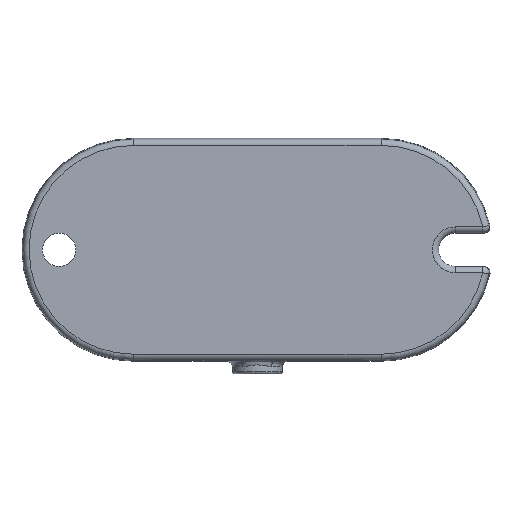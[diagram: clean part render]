
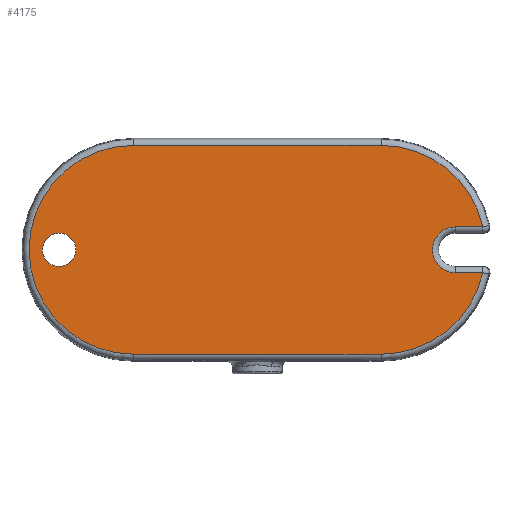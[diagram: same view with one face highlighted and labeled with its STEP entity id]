
A CAD part, front view. The second image highlights one B-rep face of the part: STEP entity #4175.
In plain terms, the highlighted planar face has unit normal (0, -1, 0).
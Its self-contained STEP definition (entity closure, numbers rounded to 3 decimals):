
#50 = VERTEX_POINT ( 'NONE', #261 ) ;
#52 = VERTEX_POINT ( 'NONE', #12150 ) ;
#93 = VERTEX_POINT ( 'NONE', #303 ) ;
#103 = VERTEX_POINT ( 'NONE', #313 ) ;
#108 = VERTEX_POINT ( 'NONE', #318 ) ;
#261 = CARTESIAN_POINT ( 'NONE',  ( 20., -5., -16.86 ) ) ;
#303 = CARTESIAN_POINT ( 'NONE',  ( -32., -5., 2.7 ) ) ;
#313 = CARTESIAN_POINT ( 'NONE',  ( 36.449, -5., 3.7 ) ) ;
#318 = CARTESIAN_POINT ( 'NONE',  ( -32., -5., -2.7 ) ) ;
#4175 = ADVANCED_FACE ( 'NONE', ( #5185, #5197 ), #5993, .T. ) ;
#4890 = CARTESIAN_POINT ( 'NONE',  ( 20., -5., 0. ) ) ;
#4891 = DIRECTION ( 'NONE',  ( 0., -1., 0. ) ) ;
#4892 = DIRECTION ( 'NONE',  ( 0., 0., -1. ) ) ;
#4893 = CARTESIAN_POINT ( 'NONE',  ( 20., -5., -16.86 ) ) ;
#4894 = CARTESIAN_POINT ( 'NONE',  ( 32., -5., 0. ) ) ;
#4896 = CARTESIAN_POINT ( 'NONE',  ( -20., -5., 0. ) ) ;
#4897 = DIRECTION ( 'NONE',  ( 1., 0., 0. ) ) ;
#4898 = CARTESIAN_POINT ( 'NONE',  ( 20., -5., 0. ) ) ;
#4899 = DIRECTION ( 'NONE',  ( 0., -1., 0. ) ) ;
#4900 = DIRECTION ( 'NONE',  ( 0., 0., -1. ) ) ;
#4901 = CARTESIAN_POINT ( 'NONE',  ( 36.642, -5., 3.7 ) ) ;
#4902 = DIRECTION ( 'NONE',  ( 1., 0., 0. ) ) ;
#4904 = DIRECTION ( 'NONE',  ( 0., 1., 0. ) ) ;
#4905 = DIRECTION ( 'NONE',  ( 0., 0., -1. ) ) ;
#4906 = CARTESIAN_POINT ( 'NONE',  ( -20., -5., 16.86 ) ) ;
#4907 = DIRECTION ( 'NONE',  ( -1., 0., 0. ) ) ;
#4908 = DIRECTION ( 'NONE',  ( 0., -1., 0. ) ) ;
#4909 = DIRECTION ( 'NONE',  ( 0., 0., -1. ) ) ;
#4910 = CARTESIAN_POINT ( 'NONE',  ( 32., -5., -3.7 ) ) ;
#4911 = DIRECTION ( 'NONE',  ( -1., 0., 0. ) ) ;
#4915 = CARTESIAN_POINT ( 'NONE',  ( -32., -5., 0. ) ) ;
#4917 = DIRECTION ( 'NONE',  ( 0., -1., 0. ) ) ;
#4918 = DIRECTION ( 'NONE',  ( 0., 0., -1. ) ) ;
#5185 = FACE_OUTER_BOUND ( 'NONE', #17907, .T. ) ;
#5197 = FACE_BOUND ( 'NONE', #17795, .T. ) ;
#5993 = PLANE ( 'NONE',  #15776 ) ;
#5996 = CARTESIAN_POINT ( 'NONE',  ( -20., -5., 0. ) ) ;
#6001 = DIRECTION ( 'NONE',  ( 0., -1., 0. ) ) ;
#6002 = DIRECTION ( 'NONE',  ( 0., 0., -1. ) ) ;
#7919 = CARTESIAN_POINT ( 'NONE',  ( 32., -5., 3.7 ) ) ;
#7969 = CARTESIAN_POINT ( 'NONE',  ( 36.449, -5., -3.7 ) ) ;
#8006 = CARTESIAN_POINT ( 'NONE',  ( -20., -5., 16.86 ) ) ;
#8040 = CARTESIAN_POINT ( 'NONE',  ( -20., -5., -16.86 ) ) ;
#8046 = CARTESIAN_POINT ( 'NONE',  ( 20., -5., 16.86 ) ) ;
#8336 = CARTESIAN_POINT ( 'NONE',  ( -32., -5., 0. ) ) ;
#8337 = DIRECTION ( 'NONE',  ( 0., -1., 0. ) ) ;
#8338 = DIRECTION ( 'NONE',  ( 0., 0., -1. ) ) ;
#12150 = CARTESIAN_POINT ( 'NONE',  ( 32., -5., -3.7 ) ) ;
#12152 = VERTEX_POINT ( 'NONE', #7919 ) ;
#12198 = VERTEX_POINT ( 'NONE', #7969 ) ;
#12235 = VERTEX_POINT ( 'NONE', #8006 ) ;
#12269 = VERTEX_POINT ( 'NONE', #8040 ) ;
#12275 = VERTEX_POINT ( 'NONE', #8046 ) ;
#13199 = EDGE_CURVE ( 'NONE', #93, #108, #16374, .T. ) ;
#15511 = EDGE_CURVE ( 'NONE', #103, #12275, #16542, .T. ) ;
#15513 = EDGE_CURVE ( 'NONE', #12269, #50, #16540, .T. ) ;
#15514 = EDGE_CURVE ( 'NONE', #12235, #12269, #16547, .T. ) ;
#15515 = EDGE_CURVE ( 'NONE', #12152, #103, #16536, .T. ) ;
#15516 = EDGE_CURVE ( 'NONE', #52, #12152, #16549, .T. ) ;
#15517 = EDGE_CURVE ( 'NONE', #12275, #12235, #16544, .T. ) ;
#15518 = EDGE_CURVE ( 'NONE', #50, #12198, #16550, .T. ) ;
#15519 = EDGE_CURVE ( 'NONE', #12198, #52, #16545, .T. ) ;
#15521 = EDGE_CURVE ( 'NONE', #108, #93, #16553, .T. ) ;
#15776 = AXIS2_PLACEMENT_3D ( 'NONE', #5996, #6001, #6002 ) ;
#16009 = AXIS2_PLACEMENT_3D ( 'NONE', #8336, #8337, #8338 ) ;
#16034 = AXIS2_PLACEMENT_3D ( 'NONE', #4896, #4899, #4900 ) ;
#16036 = AXIS2_PLACEMENT_3D ( 'NONE', #4890, #4891, #4892 ) ;
#16037 = AXIS2_PLACEMENT_3D ( 'NONE', #4915, #4917, #4918 ) ;
#16038 = AXIS2_PLACEMENT_3D ( 'NONE', #4894, #4904, #4905 ) ;
#16039 = AXIS2_PLACEMENT_3D ( 'NONE', #4898, #4908, #4909 ) ;
#16374 = CIRCLE ( 'NONE', #16009, 2.7 ) ;
#16536 = LINE ( 'NONE', #4901, #16539 ) ;
#16539 = VECTOR ( 'NONE', #4902, 1000. ) ;
#16540 = LINE ( 'NONE', #4893, #16543 ) ;
#16542 = CIRCLE ( 'NONE', #16036, 16.86 ) ;
#16543 = VECTOR ( 'NONE', #4897, 1000. ) ;
#16544 = LINE ( 'NONE', #4906, #16546 ) ;
#16545 = LINE ( 'NONE', #4910, #16548 ) ;
#16546 = VECTOR ( 'NONE', #4907, 1000. ) ;
#16547 = CIRCLE ( 'NONE', #16034, 16.86 ) ;
#16548 = VECTOR ( 'NONE', #4911, 1000. ) ;
#16549 = CIRCLE ( 'NONE', #16038, 3.7 ) ;
#16550 = CIRCLE ( 'NONE', #16039, 16.86 ) ;
#16553 = CIRCLE ( 'NONE', #16037, 2.7 ) ;
#17072 = ORIENTED_EDGE ( 'NONE', *, *, #15519, .T. ) ;
#17074 = ORIENTED_EDGE ( 'NONE', *, *, #15518, .T. ) ;
#17075 = ORIENTED_EDGE ( 'NONE', *, *, #15513, .T. ) ;
#17077 = ORIENTED_EDGE ( 'NONE', *, *, #15514, .T. ) ;
#17078 = ORIENTED_EDGE ( 'NONE', *, *, #15521, .F. ) ;
#17080 = ORIENTED_EDGE ( 'NONE', *, *, #15517, .T. ) ;
#17083 = ORIENTED_EDGE ( 'NONE', *, *, #15515, .T. ) ;
#17085 = ORIENTED_EDGE ( 'NONE', *, *, #15516, .T. ) ;
#17133 = ORIENTED_EDGE ( 'NONE', *, *, #13199, .F. ) ;
#17411 = ORIENTED_EDGE ( 'NONE', *, *, #15511, .T. ) ;
#17795 = EDGE_LOOP ( 'NONE', ( #17078, #17133 ) ) ;
#17907 = EDGE_LOOP ( 'NONE', ( #17085, #17083, #17411, #17080, #17077, #17075, #17074, #17072 ) ) ;
